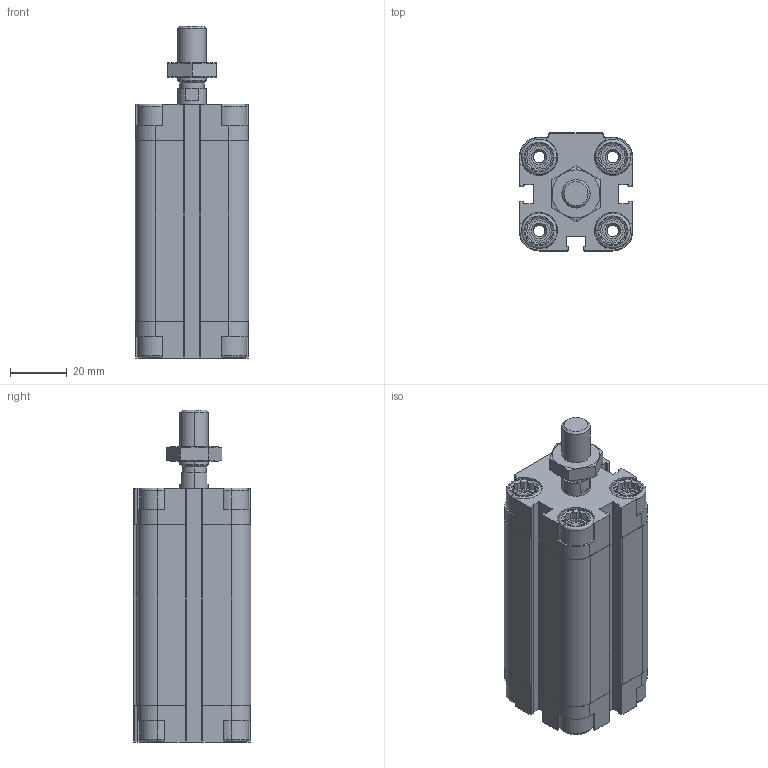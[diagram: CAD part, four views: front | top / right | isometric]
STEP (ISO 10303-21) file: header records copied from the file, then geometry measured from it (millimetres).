
FILE_DESCRIPTION (( 'STEP AP203' ), '1' );
FILE_NAME ('CDVU25-50.STEP', '2020-03-19T11:32:03', ( '' ), ( '' ), 'SwSTEP 2.0', 'SolidWorks 2019', '' );
FILE_SCHEMA (( 'CONFIG_CONTROL_DESIGN' ));
Length unit declared in the file: millimetre
Products named in the file (1): CDVU25-50
Bounding box: 40 x 41.5 x 117 mm (x, y, z)
Volume: 99618 mm3; surface area: 41304.9 mm2
Topology: 3 solids, 3 shells, 601 faces, 1578 edges, 1018 vertices
Faces by surface type: plane 359, cylinder 172, cone 54, torus 16
Entity records: 18929 total; most frequent: CARTESIAN_POINT 4054, ORIENTED_EDGE 3148, DIRECTION 3002, EDGE_CURVE 1574, AXIS2_PLACEMENT_3D 1030, VERTEX_POINT 1018, LINE 942, VECTOR 942
